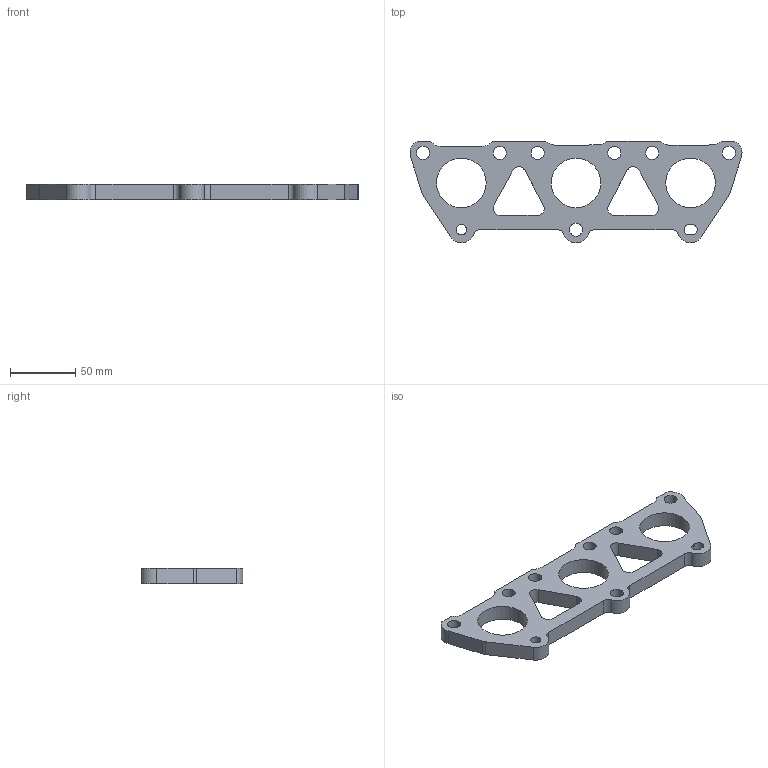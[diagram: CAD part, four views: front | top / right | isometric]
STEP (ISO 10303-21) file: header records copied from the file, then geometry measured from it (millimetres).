
FILE_DESCRIPTION(/* description */ ('','CAx-IF Rec.Pracs.---Representation and Presentation of Product Manufacturing Information (PMI)---4.0---2014-10-13'),/* implementation_level */ '2;1');
FILE_NAME(/* name */ 'Biturbo pakosarjan laippa v3.step',/* time_stamp */ '2025-03-09T09:50:55+02:00',/* author */ (''),/* organization */ (''),/* preprocessor_version */ 'ST-DEVELOPER v20',/* originating_system */ 'Autodesk Translation Framework v13.20.0.188',/* authorisation */ '');
FILE_SCHEMA (('AP242_MANAGED_MODEL_BASED_3D_ENGINEERING_MIM_LF { 1 0 10303 442 1 1 4 }'));
Length unit declared in the file: millimetre
Products named in the file (1): Biturbo pakosarjan laippa
Bounding box: 255 x 77.99 x 12 mm (x, y, z)
Volume: 121398.2 mm3; surface area: 38334 mm2
Topology: 1 solids, 1 shells, 59 faces, 171 edges, 114 vertices
Faces by surface type: cylinder 36, plane 23
Full cylindrical faces by diameter (mm): 8 x1, 10 x7, 38.07 x3
Entity records: 2066 total; most frequent: DIRECTION 363, CARTESIAN_POINT 345, ORIENTED_EDGE 342, EDGE_CURVE 171, AXIS2_PLACEMENT_3D 132, VERTEX_POINT 114, LINE 99, VECTOR 99
